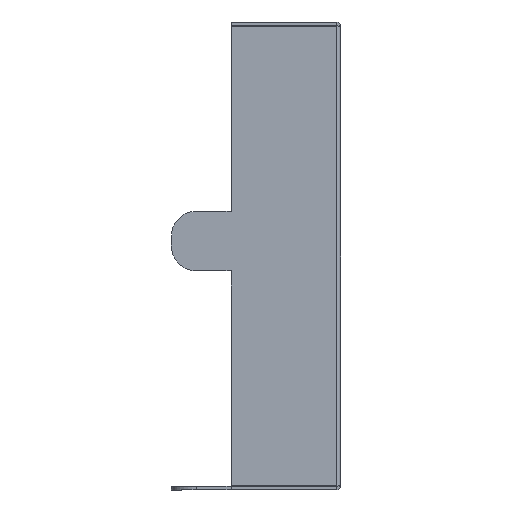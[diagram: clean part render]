
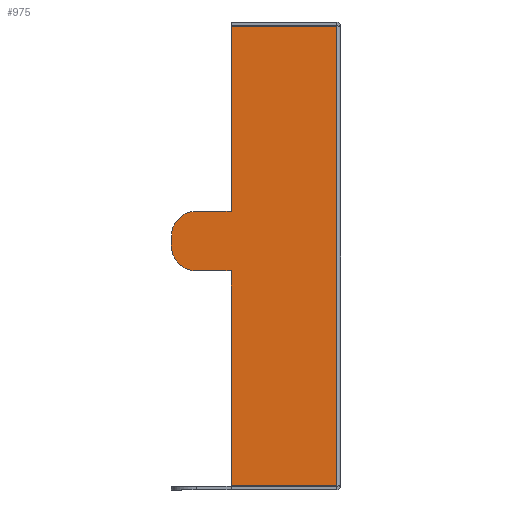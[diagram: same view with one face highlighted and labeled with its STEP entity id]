
A CAD part, left-side view. The second image highlights one B-rep face of the part: STEP entity #975.
In plain terms, the highlighted planar face has unit normal (-1, 0, 0).
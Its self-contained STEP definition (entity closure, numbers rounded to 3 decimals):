
#8 = VECTOR ( 'NONE', #494, 1000. ) ;
#67 = EDGE_LOOP ( 'NONE', ( #813, #92, #1171, #136, #784, #1069, #513, #1166, #1376, #1177 ) ) ;
#92 = ORIENTED_EDGE ( 'NONE', *, *, #1102, .T. ) ;
#102 = DIRECTION ( 'NONE',  ( 0., 1., 0. ) ) ;
#124 = EDGE_CURVE ( 'NONE', #882, #849, #476, .T. ) ;
#136 = ORIENTED_EDGE ( 'NONE', *, *, #390, .T. ) ;
#147 = VECTOR ( 'NONE', #1144, 1000. ) ;
#155 = CARTESIAN_POINT ( 'NONE',  ( -72.5, 5.5, -11.543 ) ) ;
#166 = EDGE_CURVE ( 'NONE', #1128, #1363, #1016, .T. ) ;
#185 = CARTESIAN_POINT ( 'NONE',  ( -72.5, 0.2, -11.543 ) ) ;
#232 = DIRECTION ( 'NONE',  ( 0., 1., 0. ) ) ;
#242 = VERTEX_POINT ( 'NONE', #466 ) ;
#263 = CARTESIAN_POINT ( 'NONE',  ( -72.5, 5.5, -0.75 ) ) ;
#271 = DIRECTION ( 'NONE',  ( -1., 0., 0. ) ) ;
#285 = VECTOR ( 'NONE', #817, 1000. ) ;
#299 = CIRCLE ( 'NONE', #1384, 1.25 ) ;
#331 = EDGE_CURVE ( 'NONE', #576, #1356, #1081, .T. ) ;
#341 = PLANE ( 'NONE',  #953 ) ;
#377 = EDGE_CURVE ( 'NONE', #882, #577, #858, .T. ) ;
#390 = EDGE_CURVE ( 'NONE', #480, #727, #1417, .T. ) ;
#420 = DIRECTION ( 'NONE',  ( 0., 0., -1. ) ) ;
#427 = CIRCLE ( 'NONE', #705, 1.25 ) ;
#449 = DIRECTION ( 'NONE',  ( 0., 1., 0. ) ) ;
#466 = CARTESIAN_POINT ( 'NONE',  ( -72.5, 5.5, 11.543 ) ) ;
#476 = LINE ( 'NONE', #572, #285 ) ;
#479 = EDGE_CURVE ( 'NONE', #1356, #1128, #427, .T. ) ;
#480 = VERTEX_POINT ( 'NONE', #547 ) ;
#494 = DIRECTION ( 'NONE',  ( 0., 0., -1. ) ) ;
#513 = ORIENTED_EDGE ( 'NONE', *, *, #479, .T. ) ;
#517 = CARTESIAN_POINT ( 'NONE',  ( -72.5, 7.25, 2.25 ) ) ;
#547 = CARTESIAN_POINT ( 'NONE',  ( -72.5, 5.5, 2.25 ) ) ;
#572 = CARTESIAN_POINT ( 'NONE',  ( -72.5, 0.2, -11.75 ) ) ;
#576 = VERTEX_POINT ( 'NONE', #1249 ) ;
#577 = VERTEX_POINT ( 'NONE', #155 ) ;
#587 = DIRECTION ( 'NONE',  ( 0., 0., -1. ) ) ;
#623 = EDGE_CURVE ( 'NONE', #727, #576, #299, .T. ) ;
#656 = CARTESIAN_POINT ( 'NONE',  ( -72.5, 5.5, -11.75 ) ) ;
#657 = CARTESIAN_POINT ( 'NONE',  ( -72.5, 5.5, -11.75 ) ) ;
#660 = CARTESIAN_POINT ( 'NONE',  ( -72.5, 7.25, 0.5 ) ) ;
#705 = AXIS2_PLACEMENT_3D ( 'NONE', #660, #1104, #102 ) ;
#727 = VERTEX_POINT ( 'NONE', #517 ) ;
#728 = EDGE_CURVE ( 'NONE', #1363, #577, #761, .T. ) ;
#730 = CARTESIAN_POINT ( 'NONE',  ( -72.5, 0.2, -11.543 ) ) ;
#746 = DIRECTION ( 'NONE',  ( 0., 1., 0. ) ) ;
#747 = EDGE_CURVE ( 'NONE', #242, #480, #1204, .T. ) ;
#758 = LINE ( 'NONE', #1427, #1290 ) ;
#761 = LINE ( 'NONE', #976, #1244 ) ;
#784 = ORIENTED_EDGE ( 'NONE', *, *, #623, .T. ) ;
#813 = ORIENTED_EDGE ( 'NONE', *, *, #124, .T. ) ;
#817 = DIRECTION ( 'NONE',  ( 0., 0., 1. ) ) ;
#818 = VECTOR ( 'NONE', #587, 1000. ) ;
#827 = VECTOR ( 'NONE', #746, 1000. ) ;
#849 = VERTEX_POINT ( 'NONE', #1162 ) ;
#856 = CARTESIAN_POINT ( 'NONE',  ( -72.5, 7.25, 1. ) ) ;
#858 = LINE ( 'NONE', #185, #827 ) ;
#882 = VERTEX_POINT ( 'NONE', #730 ) ;
#953 = AXIS2_PLACEMENT_3D ( 'NONE', #657, #1423, #232 ) ;
#974 = DIRECTION ( 'NONE',  ( 0., 1., 0. ) ) ;
#975 = ADVANCED_FACE ( 'NONE', ( #1306 ), #341, .F. ) ;
#976 = CARTESIAN_POINT ( 'NONE',  ( -72.5, 5.5, -11.75 ) ) ;
#989 = CARTESIAN_POINT ( 'NONE',  ( -72.5, 7.25, -0.75 ) ) ;
#1001 = CARTESIAN_POINT ( 'NONE',  ( -72.5, 8.5, 0.5 ) ) ;
#1016 = LINE ( 'NONE', #1360, #147 ) ;
#1069 = ORIENTED_EDGE ( 'NONE', *, *, #331, .T. ) ;
#1081 = LINE ( 'NONE', #1381, #8 ) ;
#1095 = CARTESIAN_POINT ( 'NONE',  ( -72.5, 5.5, 2.25 ) ) ;
#1102 = EDGE_CURVE ( 'NONE', #849, #242, #758, .T. ) ;
#1104 = DIRECTION ( 'NONE',  ( -1., 0., 0. ) ) ;
#1122 = VECTOR ( 'NONE', #449, 1000. ) ;
#1128 = VERTEX_POINT ( 'NONE', #989 ) ;
#1144 = DIRECTION ( 'NONE',  ( 0., -1., 0. ) ) ;
#1162 = CARTESIAN_POINT ( 'NONE',  ( -72.5, 0.2, 11.543 ) ) ;
#1166 = ORIENTED_EDGE ( 'NONE', *, *, #166, .T. ) ;
#1171 = ORIENTED_EDGE ( 'NONE', *, *, #747, .T. ) ;
#1177 = ORIENTED_EDGE ( 'NONE', *, *, #377, .F. ) ;
#1183 = DIRECTION ( 'NONE',  ( 0., 1., 0. ) ) ;
#1204 = LINE ( 'NONE', #656, #818 ) ;
#1244 = VECTOR ( 'NONE', #420, 1000. ) ;
#1249 = CARTESIAN_POINT ( 'NONE',  ( -72.5, 8.5, 1. ) ) ;
#1290 = VECTOR ( 'NONE', #974, 1000. ) ;
#1306 = FACE_OUTER_BOUND ( 'NONE', #67, .T. ) ;
#1356 = VERTEX_POINT ( 'NONE', #1001 ) ;
#1360 = CARTESIAN_POINT ( 'NONE',  ( -72.5, 5.5, -0.75 ) ) ;
#1363 = VERTEX_POINT ( 'NONE', #263 ) ;
#1376 = ORIENTED_EDGE ( 'NONE', *, *, #728, .T. ) ;
#1381 = CARTESIAN_POINT ( 'NONE',  ( -72.5, 8.5, 0.5 ) ) ;
#1384 = AXIS2_PLACEMENT_3D ( 'NONE', #856, #271, #1183 ) ;
#1417 = LINE ( 'NONE', #1095, #1122 ) ;
#1423 = DIRECTION ( 'NONE',  ( 1., 0., 0. ) ) ;
#1427 = CARTESIAN_POINT ( 'NONE',  ( -72.5, 5.5, 11.543 ) ) ;
